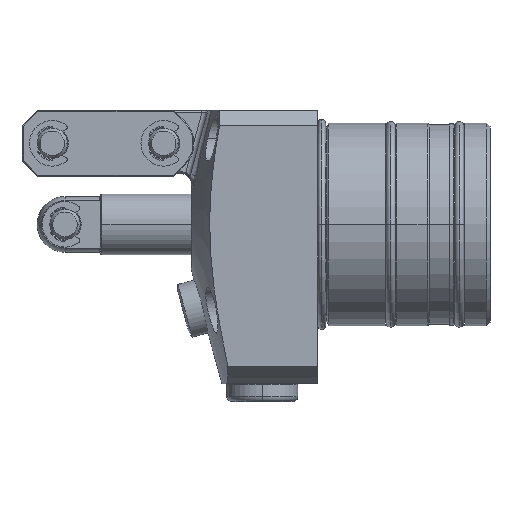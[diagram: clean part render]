
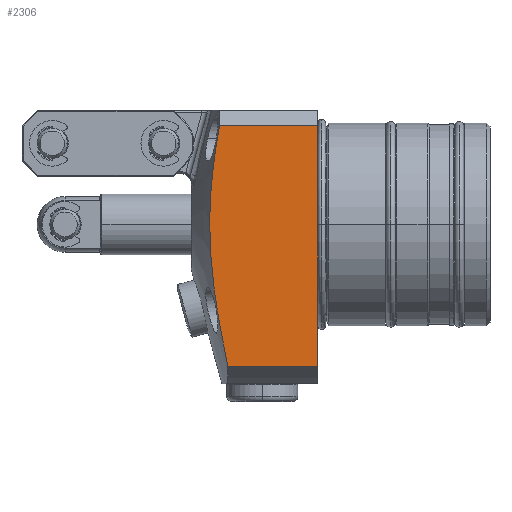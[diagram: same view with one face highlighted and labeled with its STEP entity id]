
A CAD part, top view. The second image highlights one B-rep face of the part: STEP entity #2306.
In plain terms, the highlighted planar face has unit normal (0, 0, 1).
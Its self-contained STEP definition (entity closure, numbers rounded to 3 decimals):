
#1625=PLANE('',#8377);
#1946=B_SPLINE_CURVE_WITH_KNOTS('',3,(#12635,#12636,#12637,#12638,#12639,
#12640,#12641,#12642),.UNSPECIFIED.,.F.,.F.,(4,2,2,4),(0.,0.5,0.75,1.),
 .UNSPECIFIED.);
#2306=ADVANCED_FACE('',(#2773),#1625,.F.);
#2773=FACE_OUTER_BOUND('',#3186,.T.);
#3186=EDGE_LOOP('',(#5022,#5023,#5024,#5025));
#3643=LINE('',#12663,#3979);
#3644=LINE('',#12665,#3980);
#3645=LINE('',#12667,#3981);
#3979=VECTOR('',#9997,1.);
#3980=VECTOR('',#10000,1.);
#3981=VECTOR('',#10001,1.);
#5022=ORIENTED_EDGE('',*,*,#7014,.F.);
#5023=ORIENTED_EDGE('',*,*,#7015,.T.);
#5024=ORIENTED_EDGE('',*,*,#7003,.F.);
#5025=ORIENTED_EDGE('',*,*,#7013,.F.);
#6289=VERTEX_POINT('',#12634);
#6290=VERTEX_POINT('',#12643);
#6294=VERTEX_POINT('',#12662);
#6295=VERTEX_POINT('',#12666);
#7003=EDGE_CURVE('',#6289,#6290,#1946,.T.);
#7013=EDGE_CURVE('',#6294,#6289,#3643,.T.);
#7014=EDGE_CURVE('',#6295,#6294,#3644,.T.);
#7015=EDGE_CURVE('',#6295,#6290,#3645,.T.);
#8377=AXIS2_PLACEMENT_3D('',#12668,#10002,#10003);
#9997=DIRECTION('',(-1.,0.,0.));
#10000=DIRECTION('',(0.,-1.,0.));
#10001=DIRECTION('',(-1.,0.,0.));
#10002=DIRECTION('',(0.,0.,-1.));
#10003=DIRECTION('',(0.,-1.,0.));
#12634=CARTESIAN_POINT('',(-17.792,-28.102,22.5));
#12635=CARTESIAN_POINT('',(-17.792,-28.102,22.5));
#12636=CARTESIAN_POINT('',(-19.43,-20.269,22.5));
#12637=CARTESIAN_POINT('',(-20.875,-12.419,22.5));
#12638=CARTESIAN_POINT('',(-21.498,-0.509,22.5));
#12639=CARTESIAN_POINT('',(-21.423,3.485,22.5));
#12640=CARTESIAN_POINT('',(-20.742,11.52,22.5));
#12641=CARTESIAN_POINT('',(-20.158,15.522,22.5));
#12642=CARTESIAN_POINT('',(-19.46,19.5,22.5));
#12643=CARTESIAN_POINT('',(-19.46,19.5,22.5));
#12662=CARTESIAN_POINT('',(0.,-28.102,22.5));
#12663=CARTESIAN_POINT('',(23.001,-28.102,22.5));
#12665=CARTESIAN_POINT('',(0.,0.,22.5));
#12666=CARTESIAN_POINT('',(0.,19.5,22.5));
#12667=CARTESIAN_POINT('',(23.001,19.5,22.5));
#12668=CARTESIAN_POINT('',(23.001,0.,22.5));
